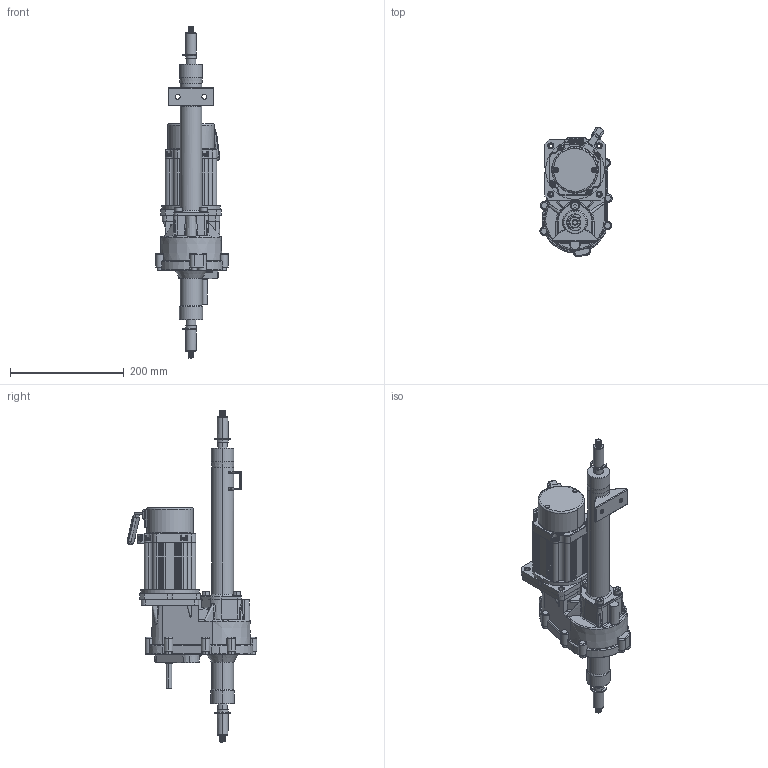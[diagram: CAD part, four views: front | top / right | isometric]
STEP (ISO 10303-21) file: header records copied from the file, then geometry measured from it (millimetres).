
FILE_DESCRIPTION (( 'STEP AP214' ), '1' );
FILE_NAME ('¥~«¬¹Ï-BL90L48T8B00230500-°Ñ00.STEP', '2018-03-21T21:33:38', ( '' ), ( '' ), 'SwSTEP 2.0', 'SolidWorks 2015', '' );
FILE_SCHEMA (( 'AUTOMOTIVE_DESIGN' ));
Length unit declared in the file: inch
Products named in the file (1): 外型圖-BL90L48T8B00230500-參00
Bounding box: 127.42 x 228.18 x 584 mm (x, y, z)
Volume: 2374210.9 mm3; surface area: 408247.5 mm2
Topology: 30 solids, 30 shells, 3759 faces, 10037 edges, 6415 vertices
Faces by surface type: plane 1780, cylinder 1305, cone 370, torus 167, bspline 106, sphere 31
Entity records: 175943 total; most frequent: CARTESIAN_POINT 32036, ORIENTED_EDGE 20018, DIRECTION 19877, EDGE_CURVE 10009, AXIS2_PLACEMENT_3D 6987, VERTEX_POINT 6413, VECTOR 5903, LINE 5903
